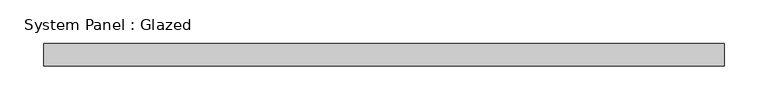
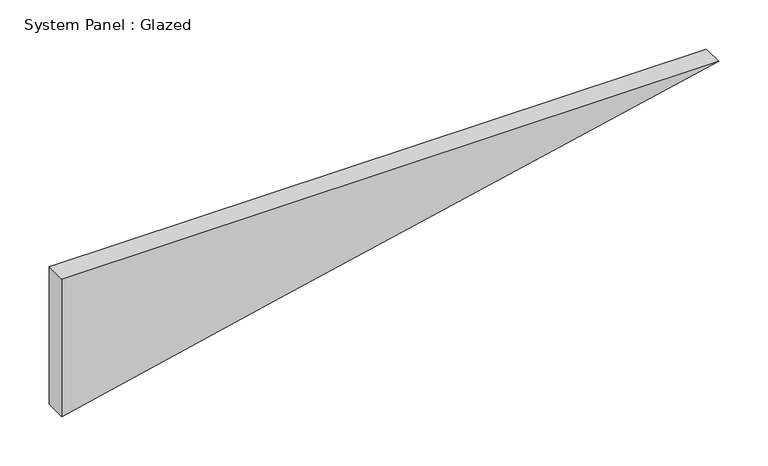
"""IFC4 building model written with IfcOpenShell, lengths in millimetres: plate geometry, System Panel : Glazed."""

from ifc_helpers import new_model, si_unit, frame, origin, place, context, project, spatial, polyline, outline, extrude, source, transform, mapped, element, save


def system_panel_glazed_68af7b0f(model_context):
    return source(origin(), model_context, "Body", "SweptSolid", [
        extrude(outline(polyline([(0.0, -386.4482706), (57.7234325, -129.4607845), (170.9155412, 386.4482706), (170.9155412, -386.4482706), (0.0, -386.4482706)])), frame((0.0, 19.05, 0.0), z_axis=(0.0, 1.0, 0.0), x_axis=(0.0, 0.0, 1.0)), (0.0, 0.0, 1.0), 25.4),
    ])


if __name__ == "__main__":
    model = new_model("IFC4")
    model_context = context("Model", 3, world=origin())
    ifc_project = project(units=[si_unit("LENGTHUNIT", "METRE", prefix="MILLI")], contexts=[model_context])
    site = spatial("IfcSite", under=ifc_project)
    building = spatial("IfcBuilding", under=site)
    placement = place(None, origin())
    system_panel_glazed_shape = system_panel_glazed_68af7b0f(model_context)
    element("IfcPlate", 1, ObjectType="System Panel : Glazed", at=placement, inside=building, context=model_context, shape_type="MappedRepresentation", body=[
        mapped(system_panel_glazed_shape, transform((0.0, 0.0, 0.0), x_axis=(1.0, 0.0, 0.0), y_axis=(0.0, 1.0, 0.0), z_axis=(0.0, 0.0, 1.0))),
    ])
    save(model, "model.ifc")
